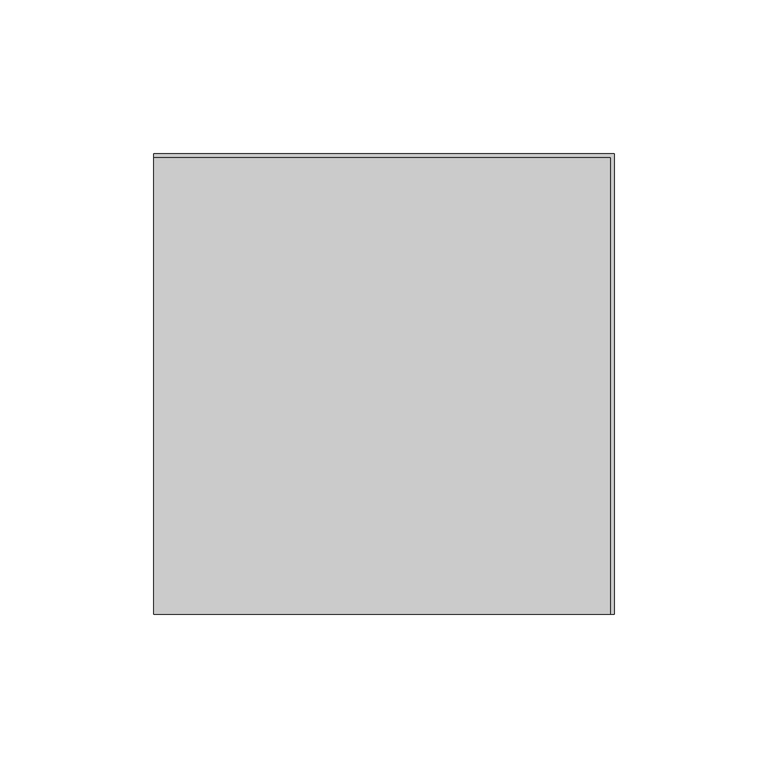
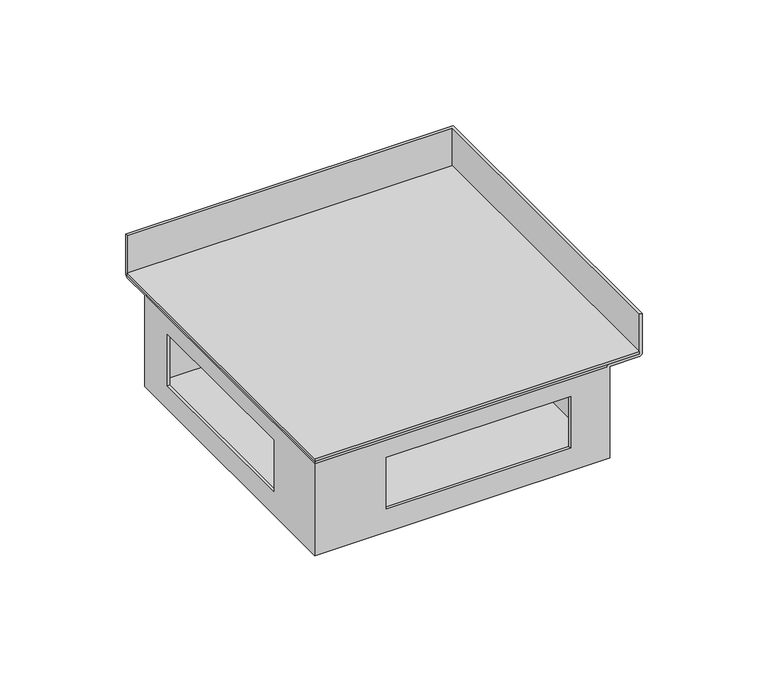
"""IFC4 building model written with IfcOpenShell, lengths in millimetres: proxy geometry, TECHNO_Угловой элемент_KVU : 150_065_90°."""

from ifc_helpers import new_model, si_unit, frame, origin, place, context, project, spatial, polyline, circle_curve, ellipse_curve, outline, extrude, source, transform, mapped, element, save
from ifc_brep_helpers import plane_surface, cylinder_surface, advanced_brep


def mechanical_equipment_f506e6a4(model_context):
    return source(origin(), model_context, "Body", "SolidModel", [
        extrude(outline(polyline([(0.0, 73.8), (148.8, 73.8), (148.8, -75.0), (0.0, -75.0), (0.0, 73.8)])), frame((0.0, 0.0, -19.3), z_axis=(0.0, 0.0, 1.0), x_axis=(1.0, 0.0, 0.0)), (0.0, 0.0, 1.0), 1.2),
        advanced_brep(
        [(1.2, 59.0, -63.8), (1.2, -73.8, -63.8), (134.0, -73.8, -63.8), (134.0, 59.0, -63.8), (0.0, 60.2, -65.0), (135.2, 60.2, -65.0), (135.2, -75.0, -65.0), (0.0, -75.0, -65.0), (0.0, 60.2, -20.5), (0.0, -75.0, -20.5), (0.0, 59.0, -20.5), (0.0, 60.2, -19.3), (0.0, 73.8, -19.3), (0.0, 73.8, 0.0), (0.0, 75.0, 0.0), (0.0, 75.0, -19.3), (0.0, 73.8, -20.5), (0.0, -42.2, -28.8), (0.0, -42.2, -53.8), (0.0, 42.2, -53.8), (0.0, 42.2, -28.8), (135.2, -75.0, -20.5), (148.8, -75.0, -20.5), (150.0, -75.0, -19.3), (150.0, -75.0, 0.0), (148.8, -75.0, 0.0), (148.8, -75.0, -19.3), (135.2, -75.0, -19.3), (134.0, -75.0, -20.5), (32.8, -75.0, -53.8), (32.8, -75.0, -28.8), (117.2, -75.0, -28.8), (117.2, -75.0, -53.8), (135.2, 60.2, -20.5), (1.2, 60.2, -19.3), (1.2, -73.8, -19.3), (135.2, -73.8, -19.3), (148.8, 73.8, -19.3), (135.2, -59.0, -19.3), (16.0, -59.0, -19.3), (16.0, 60.2, -19.3), (135.2, 60.2, -19.3), (16.0, -59.0, -20.5), (16.0, 59.0, -20.5), (134.0, -59.0, -20.5), (134.0, -73.8, -20.5), (1.2, -73.8, -20.5), (1.2, 59.0, -20.5), (1.2, -42.2, -53.8), (1.2, -42.2, -28.8), (1.2, 42.2, -28.8), (1.2, 42.2, -53.8), (32.8, -73.8, -28.8), (32.8, -73.8, -53.8), (117.2, -73.8, -53.8), (117.2, -73.8, -28.8), (150.0, 75.0, -19.3), (150.0, 75.0, 0.0), (148.8, 73.8, 0.0), (148.8, 73.8, -20.5), (134.0, 59.0, -20.5)],
        [
            (0, 1),
            (1, 2),
            (2, 3),
            (3, 0),
            (4, 5),
            (5, 6),
            (6, 7),
            (7, 4),
            (8, 4),
            (7, 9),
            (9, 10),
            (10, 11, circle_curve(frame((0.0, 60.2, -20.5), z_axis=(-1.0, 0.0, 0.0), x_axis=(0.0, -1.0, 0.0)), 1.2)),
            (11, 12),
            (12, 13),
            (13, 14),
            (14, 15),
            (15, 16, circle_curve(frame((0.0, 73.8, -19.3), z_axis=(-1.0, 0.0, 0.0), x_axis=(0.0, -1.0, 0.0)), 1.2)),
            (16, 8),
            (17, 18),
            (18, 19),
            (19, 20),
            (20, 17),
            (6, 21),
            (21, 22),
            (22, 23, circle_curve(frame((148.8, -75.0, -19.3), z_axis=(0.0, -1.0, 0.0), x_axis=(-1.0, 0.0, 0.0)), 1.2)),
            (23, 24),
            (24, 25),
            (25, 26),
            (26, 27),
            (27, 28, circle_curve(frame((135.2, -75.0, -20.5), z_axis=(0.0, -1.0, 0.0), x_axis=(-1.0, 0.0, 0.0)), 1.2)),
            (28, 9),
            (29, 30),
            (30, 31),
            (31, 32),
            (32, 29),
            (8, 33),
            (33, 5),
            (33, 21),
            (34, 35),
            (35, 36),
            (36, 27),
            (26, 37),
            (37, 12),
            (11, 34),
            (38, 39),
            (39, 40),
            (40, 41),
            (41, 38),
            (39, 42),
            (42, 43),
            (43, 40, circle_curve(frame((16.0, 60.2, -20.5), z_axis=(-1.0, 0.0, 0.0), x_axis=(0.0, -1.0, 0.0)), 1.2)),
            (38, 44, circle_curve(frame((135.2, -59.0, -20.5), z_axis=(0.0, -1.0, 0.0), x_axis=(-1.0, 0.0, 0.0)), 1.2)),
            (44, 42),
            (44, 45),
            (45, 46),
            (46, 47),
            (47, 43),
            (46, 1),
            (0, 47),
            (48, 49),
            (49, 50),
            (50, 51),
            (51, 48),
            (45, 2),
            (52, 53),
            (53, 54),
            (54, 55),
            (55, 52),
            (34, 10, ellipse_curve(frame((1.2, 60.2, -20.5), z_axis=(0.7071067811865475, -0.7071067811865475, 0.0), x_axis=(0.7071067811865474, 0.7071067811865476, 0.0)), 1.6970563, 1.2)),
            (9, 35, ellipse_curve(frame((1.2, -73.8, -20.5), z_axis=(-0.7071067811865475, 0.7071067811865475, 0.0), x_axis=(0.7071067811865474, 0.7071067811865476, 0.0)), 1.6970563, 1.2)),
            (28, 36, ellipse_curve(frame((135.2, -73.8, -20.5), z_axis=(-0.7071067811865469, 0.707106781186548, 0.0), x_axis=(-0.7071067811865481, -0.7071067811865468, 0.0)), 1.6970563, 1.2)),
            (23, 56),
            (56, 57),
            (57, 24),
            (57, 14),
            (13, 58),
            (58, 25),
            (58, 37),
            (16, 59),
            (59, 22),
            (59, 56, ellipse_curve(frame((148.8, 73.8, -19.3), z_axis=(0.7071067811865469, -0.707106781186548, 0.0), x_axis=(-0.7071067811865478, -0.707106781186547, 0.0)), 1.6970563, 1.2)),
            (56, 15),
            (41, 60, ellipse_curve(frame((135.2, 60.2, -20.5), z_axis=(0.7071067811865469, -0.707106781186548, 0.0), x_axis=(-0.7071067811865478, -0.707106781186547, 0.0)), 1.6970563, 1.2)),
            (60, 44),
            (60, 3),
            (43, 60),
            (48, 18),
            (17, 49),
            (51, 19),
            (50, 20),
            (52, 30),
            (29, 53),
            (55, 31),
            (54, 32),
        ],
        [
            plane_surface(frame((0.0, 59.0, -63.8), z_axis=(0.0, 0.0, 1.0), x_axis=(0.0, -1.0, 0.0))),
            plane_surface(frame((0.0, 59.0, -65.0), z_axis=(0.0, 0.0, -1.0), x_axis=(0.0, 1.0, 0.0))),
            plane_surface(frame((0.0, 59.0, -63.8), z_axis=(-1.0, 0.0, 0.0), x_axis=(0.0, 0.0, -1.0))),
            plane_surface(frame((0.0, -75.0, -63.8), z_axis=(0.0, -1.0, 0.0), x_axis=(0.0, 0.0, -1.0))),
            plane_surface(frame((0.0, 60.2, -65.0), z_axis=(0.0, 1.0, 0.0), x_axis=(0.0, 0.0, -1.0))),
            plane_surface(frame((135.2, -75.0, -65.0), z_axis=(1.0, 0.0, 0.0), x_axis=(0.0, 0.0, -1.0))),
            plane_surface(frame((1.2, 60.2, -19.3), z_axis=(0.0, 0.0, 1.0), x_axis=(0.0, -1.0, 0.0))),
            plane_surface(frame((16.0, 60.2, -19.3), z_axis=(1.0, 0.0, 0.0), x_axis=(0.0, -1.0, 0.0))),
            plane_surface(frame((16.0, -59.0, -19.3), z_axis=(0.0, 1.0, 0.0), x_axis=(1.0, 0.0, 0.0))),
            plane_surface(frame((16.0, 60.2, -20.5), z_axis=(0.0, 0.0, -1.0), x_axis=(0.0, -1.0, 0.0))),
            plane_surface(frame((1.2, 60.2, -20.5), z_axis=(1.0, 0.0, 0.0), x_axis=(0.0, -1.0, 0.0))),
            plane_surface(frame((1.2, -73.8, -20.5), z_axis=(0.0, 1.0, 0.0), x_axis=(1.0, 0.0, 0.0))),
            cylinder_surface(frame((1.2, 60.2, -20.5), z_axis=(0.0, 1.0, 0.0), x_axis=(-1.0, 0.0, 0.0)), 1.2),
            cylinder_surface(frame((0.0, -73.8, -20.5), z_axis=(-1.0, 0.0, 0.0), x_axis=(0.0, -1.0, 0.0)), 1.2),
            plane_surface(frame((150.0, -75.0, -19.3), z_axis=(1.0, 0.0, 0.0), x_axis=(0.0, 1.0, 0.0))),
            plane_surface(frame((150.0, -75.0, 0.0), z_axis=(0.0, 0.0, 1.0), x_axis=(0.0, 1.0, 0.0))),
            plane_surface(frame((148.8, -75.0, 0.0), z_axis=(-1.0, 0.0, 0.0), x_axis=(0.0, 1.0, 0.0))),
            plane_surface(frame((135.2, -75.0, -20.5), z_axis=(0.0, 0.0, -1.0), x_axis=(0.0, 1.0, 0.0))),
            cylinder_surface(frame((148.8, -75.0, -19.3), z_axis=(0.0, -1.0, 0.0), x_axis=(-1.0, 0.0, 0.0)), 1.2),
            plane_surface(frame((150.0, 75.0, -19.3), z_axis=(0.0, 1.0, 0.0), x_axis=(-1.0, 0.0, 0.0))),
            plane_surface(frame((148.8, 73.8, 0.0), z_axis=(0.0, -1.0, 0.0), x_axis=(-1.0, 0.0, 0.0))),
            cylinder_surface(frame((75.0, 73.8, -19.3), z_axis=(1.0, 0.0, 0.0), x_axis=(0.0, -1.0, 0.0)), 1.2),
            cylinder_surface(frame((135.2, -75.0, -20.5), z_axis=(0.0, -1.0, 0.0), x_axis=(-1.0, 0.0, 0.0)), 1.2),
            plane_surface(frame((134.0, -75.0, -20.5), z_axis=(-1.0, 0.0, 0.0), x_axis=(0.0, 1.0, 0.0))),
            cylinder_surface(frame((75.0, 60.2, -20.5), z_axis=(1.0, 0.0, 0.0), x_axis=(0.0, -1.0, 0.0)), 1.2),
            plane_surface(frame((134.0, 59.0, -20.5), z_axis=(0.0, -1.0, 0.0), x_axis=(-1.0, 0.0, 0.0))),
            plane_surface(frame((1.2, -42.2, -28.8), z_axis=(0.0, 1.0, 0.0), x_axis=(-1.0, 0.0, 0.0))),
            plane_surface(frame((1.2, -42.2, -53.8), z_axis=(0.0, 0.0, 1.0), x_axis=(-1.0, 0.0, 0.0))),
            plane_surface(frame((1.2, 42.2, -53.8), z_axis=(0.0, -1.0, 0.0), x_axis=(-1.0, 0.0, 0.0))),
            plane_surface(frame((1.2, 42.2, -28.8), z_axis=(0.0, 0.0, -1.0), x_axis=(-1.0, 0.0, 0.0))),
            plane_surface(frame((32.8, -73.8, -53.8), z_axis=(1.0, 0.0, 0.0), x_axis=(0.0, -1.0, 0.0))),
            plane_surface(frame((32.8, -73.8, -28.8), z_axis=(0.0, 0.0, -1.0), x_axis=(0.0, -1.0, 0.0))),
            plane_surface(frame((117.2, -73.8, -28.8), z_axis=(-1.0, 0.0, 0.0), x_axis=(0.0, -1.0, 0.0))),
            plane_surface(frame((117.2, -73.8, -53.8), z_axis=(0.0, 0.0, 1.0), x_axis=(0.0, -1.0, 0.0))),
        ],
        [
            (0, [[1, 2, 3, 4]]),
            (1, [[5, 6, 7, 8]]),
            (2, [[9, -8, 10, 11, 12, 13, 14, 15, 16, 17, 18], [19, 20, 21, 22]]),
            (3, [[23, 24, 25, 26, 27, 28, 29, 30, 31, -10, -7], [32, 33, 34, 35]]),
            (4, [[-9, 36, 37, -5]]),
            (5, [[-23, -6, -37, 38]]),
            (6, [[39, 40, 41, -29, 42, 43, -13, 44], [45, 46, 47, 48]]),
            (7, [[-46, 49, 50, 51]]),
            (8, [[-45, 52, 53, -49]]),
            (9, [[-50, -53, 54, 55, 56, 57]]),
            (10, [[58, -1, 59, -56], [60, 61, 62, 63]]),
            (11, [[-58, -55, 64, -2], [65, 66, 67, 68]]),
            (12, [[-39, 69, -11, 70]]),
            (13, [[-40, -70, -31, 71]]),
            (14, [[-26, 72, 73, 74]]),
            (15, [[-27, -74, 75, -15, 76, 77]]),
            (16, [[-28, -77, 78, -42]]),
            (17, [[-24, -38, -36, -18, 79, 80]]),
            (18, [[-25, -80, 81, -72]]),
            (19, [[-73, 82, -16, -75]]),
            (20, [[-76, -14, -43, -78]]),
            (21, [[-79, -17, -82, -81]]),
            (22, [[-30, -41, -71]]),
            (22, [[83, 84, -52, -48]]),
            (23, [[85, -3, -64, -54, -84]]),
            (24, [[-12, -69, -44]]),
            (24, [[-83, -47, -51, 86]]),
            (25, [[-85, -86, -57, -59, -4]]),
            (26, [[87, -19, 88, -60]]),
            (27, [[-87, -63, 89, -20]]),
            (28, [[-89, -62, 90, -21]]),
            (29, [[-88, -22, -90, -61]]),
            (30, [[91, -32, 92, -65]]),
            (31, [[-91, -68, 93, -33]]),
            (32, [[-93, -67, 94, -34]]),
            (33, [[-92, -35, -94, -66]]),
        ],
    ),
    ])


if __name__ == "__main__":
    model = new_model("IFC4")
    model_context = context("Model", 3, world=origin())
    ifc_project = project(units=[si_unit("LENGTHUNIT", "METRE", prefix="MILLI")], contexts=[model_context])
    site = spatial("IfcSite", under=ifc_project)
    building = spatial("IfcBuilding", under=site)
    placement = place(None, origin())
    mechanical_equipment_shape = mechanical_equipment_f506e6a4(model_context)
    element("IfcBuildingElementProxy", 1, Name="TECHNO_Угловой элемент_KVU : 150_065_90°", ObjectType="TECHNO_Угловой элемент_KVU : 150_065_90°", at=placement, inside=building, context=model_context, shape_type="MappedRepresentation", body=[
        mapped(mechanical_equipment_shape, transform((0.0, 0.0, 0.0), x_axis=(1.0, 0.0, 0.0), y_axis=(0.0, 1.0, 0.0), z_axis=(0.0, 0.0, 1.0))),
    ])
    save(model, "model.ifc")
